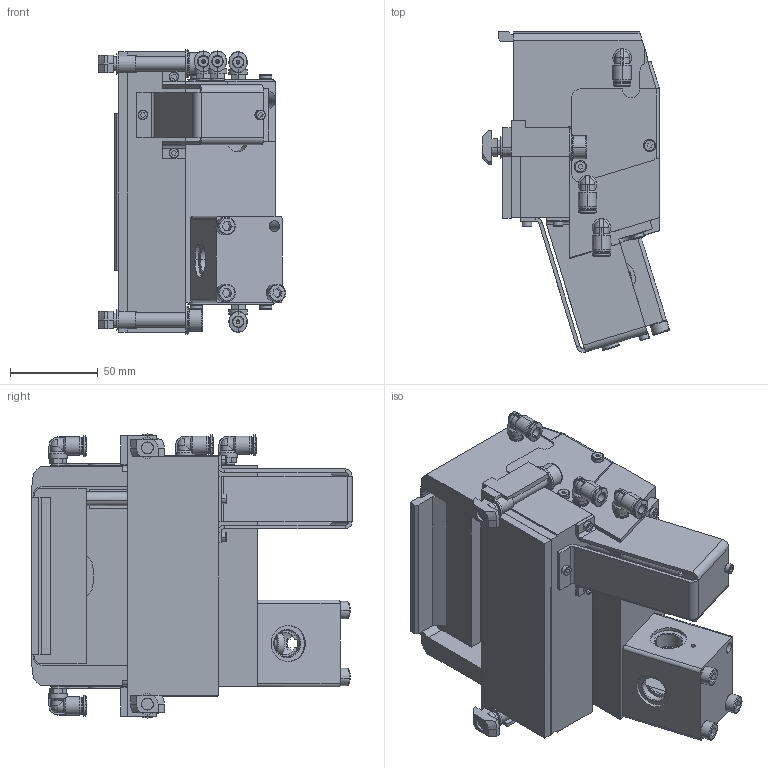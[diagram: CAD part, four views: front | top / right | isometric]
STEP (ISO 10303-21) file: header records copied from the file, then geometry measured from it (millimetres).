
FILE_DESCRIPTION (( 'STEP AP203' ), '1' );
FILE_NAME ('ASUTEC_ASMV-160-DW-17-I-100.STEP', '2017-02-12T17:05:22', ( '' ), ( '' ), 'SwSTEP 2.0', 'SolidWorks 2015', '' );
FILE_SCHEMA (( 'CONFIG_CONTROL_DESIGN' ));
Length unit declared in the file: millimetre
Products named in the file (1): ASUTEC_ASMV-160-DW-17-I-100
Bounding box: 106.78 x 182.79 x 162 mm (x, y, z)
Volume: 1033064.4 mm3; surface area: 256725.1 mm2
Topology: 5 solids, 8 shells, 1571 faces, 3839 edges, 2420 vertices
Faces by surface type: plane 753, cylinder 459, cone 215, bspline 104, torus 40
Entity records: 52105 total; most frequent: CARTESIAN_POINT 15297, ORIENTED_EDGE 7638, DIRECTION 7555, EDGE_CURVE 3819, AXIS2_PLACEMENT_3D 2684, VERTEX_POINT 2420, VECTOR 2187, LINE 2187
